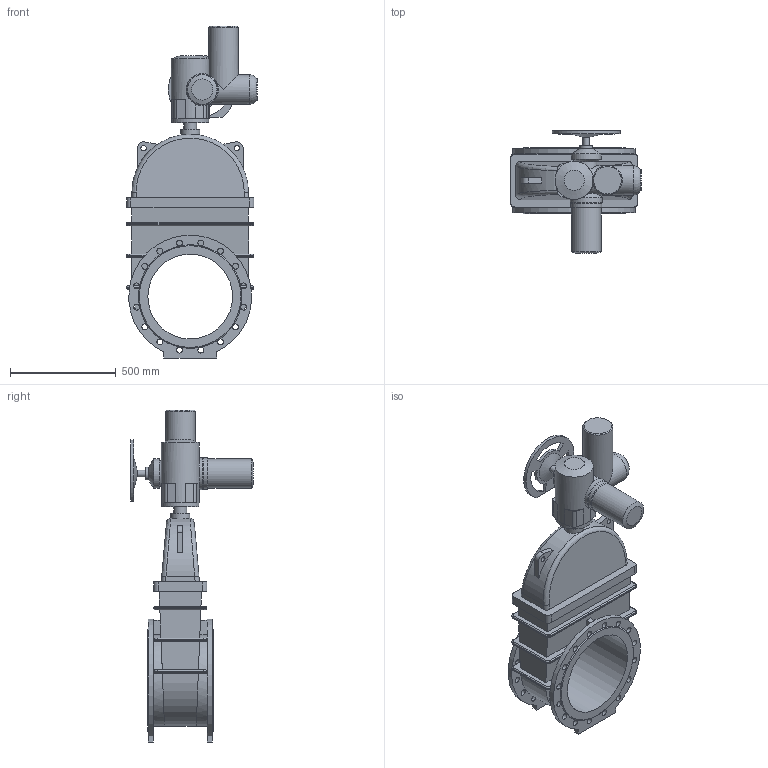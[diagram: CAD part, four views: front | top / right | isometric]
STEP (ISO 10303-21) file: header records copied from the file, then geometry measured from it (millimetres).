
FILE_DESCRIPTION(('STEP AP203'), '1');
FILE_NAME('青溻桄赅 47GVA.Z DN400 PN10+MT903.A30', '', ('UNSPECIFIED'), ('UNSPECIFIED'), 'ASCON STEP Converter 1.6', 'ASCON Math Kernel', '');
FILE_SCHEMA(('CONFIG_CONTROL_DESIGN'));
Length unit declared in the file: millimetre
Bounding box: 617 x 578 x 1567 mm (x, y, z)
Volume: 95712568.1 mm3; surface area: 3356002 mm2
Topology: 2 solids, 2 shells, 323 faces, 910 edges, 585 vertices
Faces by surface type: cylinder 145, plane 140, bspline 26, cone 11, torus 1
Full cylindrical faces by diameter (mm): 14 x4, 18 x4, 25 x2, 28 x32, 30 x1, 32 x1, 60 x2, 90 x1, 100 x3, 140 x4, 147 x1, 151 x1, 175 x1, 400 x1
Entity records: 18232 total; most frequent: CARTESIAN_POINT 7578, ORIENTED_EDGE 1682, DIRECTION 1594, EDGE_CURVE 841, AXIS2_PLACEMENT_3D 614, VERTEX_POINT 585, EDGE_LOOP 470, FACE_BOUND 372
